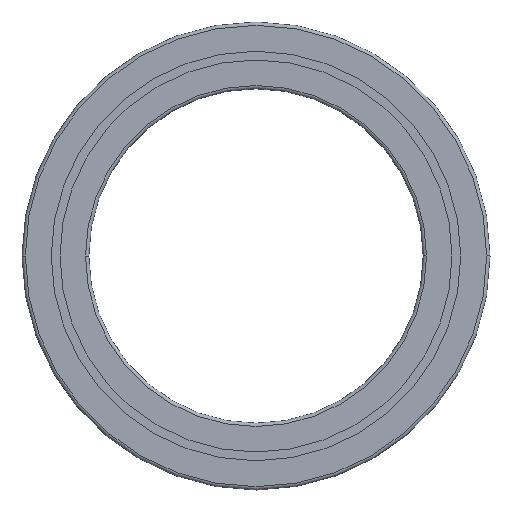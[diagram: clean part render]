
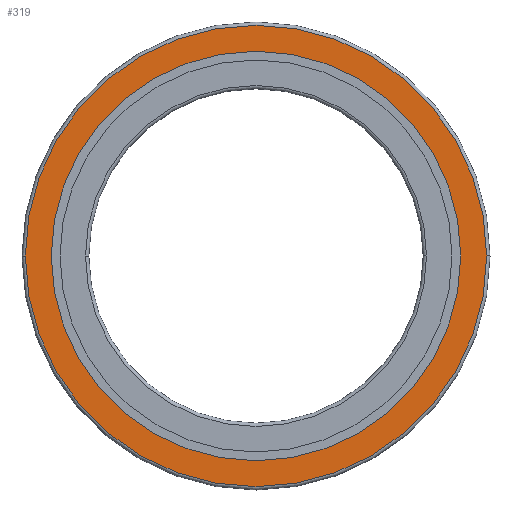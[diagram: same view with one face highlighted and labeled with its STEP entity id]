
A CAD part, front view. The second image highlights one B-rep face of the part: STEP entity #319.
In plain terms, the highlighted planar face has unit normal (0, -1, 0).
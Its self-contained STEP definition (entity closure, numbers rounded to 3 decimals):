
#215=CARTESIAN_POINT('POINT15',(122.5,0.,
   0.));
#216=VERTEX_POINT('VERTEX15',#215);
#223=CARTESIAN_POINT('POINT16',(-122.5,0.,
   0.));
#224=VERTEX_POINT('VERTEX16',#223);
#225=CARTESIAN_POINT('POS22',(0.,0.,0.));
#226=DIRECTION('DIR38',(0.,1.,0.));
#227=DIRECTION('DIR39',(1.,0.,0.));
#228=AXIS2_PLACEMENT_3D('AXIS17',#225,#226,#227);
#229=CIRCLE('ELLIPSE11',#228,122.5);
#230=EDGE_CURVE('EDGE22',#224,#216,#229,.T.);
#250=EDGE_CURVE('EDGE24',#216,#224,#229,.T.);
#295=CARTESIAN_POINT('POINT19',(138.,0.,
   0.));
#296=VERTEX_POINT('VERTEX19',#295);
#297=CARTESIAN_POINT('POINT20',(-138.,0.,
   0.));
#298=VERTEX_POINT('VERTEX20',#297);
#299=CARTESIAN_POINT('POS29',(0.,0.,0.));
#300=DIRECTION('DIR49',(0.,1.,0.));
#301=DIRECTION('DIR50',(1.,0.,0.));
#302=AXIS2_PLACEMENT_3D('AXIS21',#299,#300,#301);
#303=CIRCLE('ELLIPSE13',#302,138.);
#304=EDGE_CURVE('EDGE29',#296,#298,#303,.T.);
#305=ORIENTED_EDGE('COEDGE53',*,*,#304,.F.);
#306=EDGE_CURVE('EDGE30',#298,#296,#303,.T.);
#307=ORIENTED_EDGE('COEDGE54',*,*,#306,.F.);
#308=EDGE_LOOP('NONE',(#305,#307));
#309=FACE_BOUND('LOOP1',#308,.T.);
#310=ORIENTED_EDGE('COEDGE55',*,*,#250,.T.);
#311=ORIENTED_EDGE('COEDGE56',*,*,#230,.T.);
#312=EDGE_LOOP('NONE',(#310,#311));
#313=FACE_BOUND('LOOP1',#312,.T.);
#314=CARTESIAN_POINT('POS30',(130.25,0.,
   0.));
#315=DIRECTION('DIR51',(0.,-1.,0.));
#316=DIRECTION('DIR52',(1.,0.,0.));
#317=AXIS2_PLACEMENT_3D('AXIS22',#314,#315,#316);
#318=PLANE('PLANE4',#317);
#319=ADVANCED_FACE('FACE14',(#309,#313),#318,.T.);
